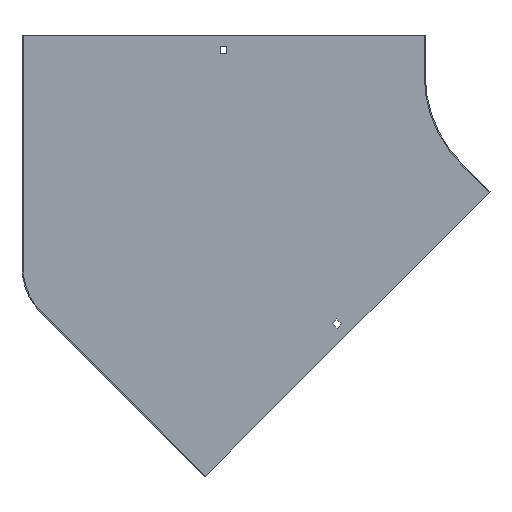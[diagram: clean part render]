
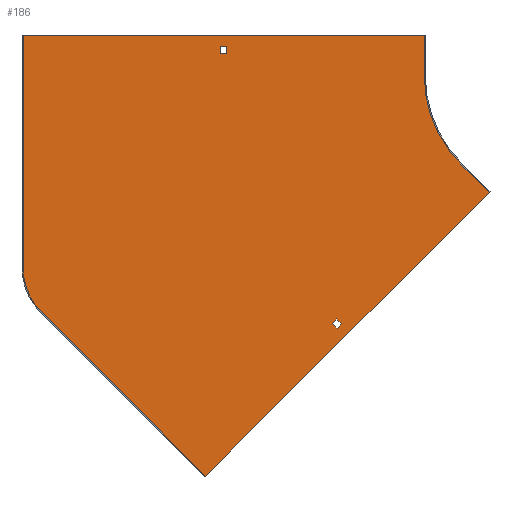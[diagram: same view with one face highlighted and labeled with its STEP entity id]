
A CAD part, front view. The second image highlights one B-rep face of the part: STEP entity #186.
In plain terms, the highlighted planar face has unit normal (0, -1, 0).
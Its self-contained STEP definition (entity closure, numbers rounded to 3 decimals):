
#9 = VERTEX_POINT ( 'NONE', #854 ) ;
#15 = ORIENTED_EDGE ( 'NONE', *, *, #339, .F. ) ;
#17 = VERTEX_POINT ( 'NONE', #56 ) ;
#27 = EDGE_LOOP ( 'NONE', ( #834, #760, #505, #430, #420, #607, #375, #112 ) ) ;
#35 = EDGE_CURVE ( 'NONE', #433, #817, #324, .T. ) ;
#41 = EDGE_CURVE ( 'NONE', #580, #518, #781, .T. ) ;
#49 = VECTOR ( 'NONE', #431, 1000. ) ;
#52 = ORIENTED_EDGE ( 'NONE', *, *, #475, .T. ) ;
#56 = CARTESIAN_POINT ( 'NONE',  ( -207.536, -1., -247.841 ) ) ;
#57 = VERTEX_POINT ( 'NONE', #652 ) ;
#78 = CARTESIAN_POINT ( 'NONE',  ( 0., -1., 0. ) ) ;
#80 = CIRCLE ( 'NONE', #145, 62.5 ) ;
#82 = EDGE_CURVE ( 'NONE', #702, #622, #792, .T. ) ;
#85 = DIRECTION ( 'NONE',  ( 0., 0., 1. ) ) ;
#94 = FACE_BOUND ( 'NONE', #625, .T. ) ;
#103 = VECTOR ( 'NONE', #141, 1000. ) ;
#110 = CARTESIAN_POINT ( 'NONE',  ( -231.931, -1., -231.931 ) ) ;
#112 = ORIENTED_EDGE ( 'NONE', *, *, #82, .F. ) ;
#113 = EDGE_CURVE ( 'NONE', #17, #711, #734, .T. ) ;
#124 = ORIENTED_EDGE ( 'NONE', *, *, #300, .F. ) ;
#130 = CARTESIAN_POINT ( 'NONE',  ( -59.397, -1., -115.966 ) ) ;
#132 = CARTESIAN_POINT ( 'NONE',  ( -227.688, -1., -227.688 ) ) ;
#133 = VECTOR ( 'NONE', #369, 1000. ) ;
#135 = CIRCLE ( 'NONE', #616, 125. ) ;
#137 = PLANE ( 'NONE',  #710 ) ;
#141 = DIRECTION ( 'NONE',  ( -0.707, 0., -0.707 ) ) ;
#145 = AXIS2_PLACEMENT_3D ( 'NONE', #619, #331, #283 ) ;
#147 = CARTESIAN_POINT ( 'NONE',  ( -322., -1., 28.5 ) ) ;
#149 = LINE ( 'NONE', #752, #755 ) ;
#152 = FACE_OUTER_BOUND ( 'NONE', #27, .T. ) ;
#162 = DIRECTION ( 'NONE',  ( 0.707, 0., -0.707 ) ) ;
#169 = VECTOR ( 'NONE', #661, 1000. ) ;
#172 = CARTESIAN_POINT ( 'NONE',  ( 20.153, -1., -20.153 ) ) ;
#186 = ADVANCED_FACE ( 'NONE', ( #94, #152, #549 ), #137, .T. ) ;
#192 = DIRECTION ( 'NONE',  ( 0., -1., 0. ) ) ;
#193 = DIRECTION ( 'NONE',  ( 1., 0., 0. ) ) ;
#194 = VERTEX_POINT ( 'NONE', #557 ) ;
#195 = CARTESIAN_POINT ( 'NONE',  ( -506.694, -1., -235.768 ) ) ;
#202 = EDGE_CURVE ( 'NONE', #711, #194, #606, .T. ) ;
#209 = VERTEX_POINT ( 'NONE', #405 ) ;
#211 = EDGE_CURVE ( 'NONE', #817, #685, #80, .T. ) ;
#219 = DIRECTION ( 'NONE',  ( -0.707, 0., 0.707 ) ) ;
#222 = ORIENTED_EDGE ( 'NONE', *, *, #41, .T. ) ;
#233 = LINE ( 'NONE', #293, #133 ) ;
#242 = VERTEX_POINT ( 'NONE', #577 ) ;
#256 = ORIENTED_EDGE ( 'NONE', *, *, #113, .F. ) ;
#272 = EDGE_CURVE ( 'NONE', #685, #242, #233, .T. ) ;
#278 = VECTOR ( 'NONE', #467, 1000. ) ;
#283 = DIRECTION ( 'NONE',  ( 0., 0., -1. ) ) ;
#293 = CARTESIAN_POINT ( 'NONE',  ( -525., -1., -191.574 ) ) ;
#300 = EDGE_CURVE ( 'NONE', #194, #822, #632, .T. ) ;
#307 = VECTOR ( 'NONE', #655, 1000. ) ;
#320 = DIRECTION ( 'NONE',  ( -0.707, 0., -0.707 ) ) ;
#321 = CARTESIAN_POINT ( 'NONE',  ( -88.388, -1., -88.388 ) ) ;
#324 = LINE ( 'NONE', #718, #644 ) ;
#328 = DIRECTION ( 'NONE',  ( 0., 0., -1. ) ) ;
#331 = DIRECTION ( 'NONE',  ( 0., 1., 0. ) ) ;
#339 = EDGE_CURVE ( 'NONE', #822, #17, #846, .T. ) ;
#352 = CARTESIAN_POINT ( 'NONE',  ( -328., -1., 0. ) ) ;
#353 = ORIENTED_EDGE ( 'NONE', *, *, #772, .T. ) ;
#369 = DIRECTION ( 'NONE',  ( 0., 0., 1. ) ) ;
#370 = CARTESIAN_POINT ( 'NONE',  ( -328., -1., 28.5 ) ) ;
#375 = ORIENTED_EDGE ( 'NONE', *, *, #794, .F. ) ;
#381 = CARTESIAN_POINT ( 'NONE',  ( -125., -1., 40. ) ) ;
#385 = LINE ( 'NONE', #651, #169 ) ;
#388 = LINE ( 'NONE', #130, #729 ) ;
#405 = CARTESIAN_POINT ( 'NONE',  ( -60.104, -1., -116.673 ) ) ;
#414 = EDGE_CURVE ( 'NONE', #209, #433, #388, .T. ) ;
#420 = ORIENTED_EDGE ( 'NONE', *, *, #414, .F. ) ;
#430 = ORIENTED_EDGE ( 'NONE', *, *, #35, .F. ) ;
#431 = DIRECTION ( 'NONE',  ( 0.707, 0., 0.707 ) ) ;
#433 = VERTEX_POINT ( 'NONE', #620 ) ;
#440 = CARTESIAN_POINT ( 'NONE',  ( -525., -1., -191.574 ) ) ;
#449 = DIRECTION ( 'NONE',  ( 0., 0., -1. ) ) ;
#464 = DIRECTION ( 'NONE',  ( 0., 0., -1. ) ) ;
#467 = DIRECTION ( 'NONE',  ( 1., 0., 0. ) ) ;
#472 = ORIENTED_EDGE ( 'NONE', *, *, #484, .T. ) ;
#475 = EDGE_CURVE ( 'NONE', #9, #580, #688, .T. ) ;
#478 = CARTESIAN_POINT ( 'NONE',  ( -88.388, -1., -88.388 ) ) ;
#484 = EDGE_CURVE ( 'NONE', #518, #57, #149, .T. ) ;
#501 = VERTEX_POINT ( 'NONE', #478 ) ;
#505 = ORIENTED_EDGE ( 'NONE', *, *, #211, .F. ) ;
#518 = VERTEX_POINT ( 'NONE', #147 ) ;
#535 = VECTOR ( 'NONE', #449, 1000. ) ;
#549 = FACE_BOUND ( 'NONE', #635, .T. ) ;
#557 = CARTESIAN_POINT ( 'NONE',  ( -216.728, -1., -247.134 ) ) ;
#573 = DIRECTION ( 'NONE',  ( -0.707, 0., 0.707 ) ) ;
#577 = CARTESIAN_POINT ( 'NONE',  ( -525., -1., 40. ) ) ;
#580 = VERTEX_POINT ( 'NONE', #370 ) ;
#582 = LINE ( 'NONE', #321, #307 ) ;
#596 = LINE ( 'NONE', #795, #278 ) ;
#599 = CARTESIAN_POINT ( 'NONE',  ( -211.778, -1., -252.084 ) ) ;
#603 = VECTOR ( 'NONE', #193, 1000. ) ;
#606 = LINE ( 'NONE', #670, #103 ) ;
#607 = ORIENTED_EDGE ( 'NONE', *, *, #726, .F. ) ;
#616 = AXIS2_PLACEMENT_3D ( 'NONE', #791, #192, #464 ) ;
#619 = CARTESIAN_POINT ( 'NONE',  ( -462.5, -1., -191.574 ) ) ;
#620 = CARTESIAN_POINT ( 'NONE',  ( -342.947, -1., -399.515 ) ) ;
#622 = VERTEX_POINT ( 'NONE', #708 ) ;
#624 = DIRECTION ( 'NONE',  ( 0., 0., -1. ) ) ;
#625 = EDGE_LOOP ( 'NONE', ( #256, #15, #124, #797 ) ) ;
#629 = VECTOR ( 'NONE', #162, 1000. ) ;
#632 = LINE ( 'NONE', #110, #629 ) ;
#635 = EDGE_LOOP ( 'NONE', ( #222, #472, #353, #52 ) ) ;
#644 = VECTOR ( 'NONE', #573, 1000. ) ;
#651 = CARTESIAN_POINT ( 'NONE',  ( 0., -1., 21.5 ) ) ;
#652 = CARTESIAN_POINT ( 'NONE',  ( -322., -1., 21.5 ) ) ;
#655 = DIRECTION ( 'NONE',  ( 0.707, 0., -0.707 ) ) ;
#661 = DIRECTION ( 'NONE',  ( -1., 0., 0. ) ) ;
#670 = CARTESIAN_POINT ( 'NONE',  ( 15.203, -1., -15.203 ) ) ;
#685 = VERTEX_POINT ( 'NONE', #440 ) ;
#688 = LINE ( 'NONE', #352, #810 ) ;
#702 = VERTEX_POINT ( 'NONE', #780 ) ;
#708 = CARTESIAN_POINT ( 'NONE',  ( -125., -1., 0. ) ) ;
#710 = AXIS2_PLACEMENT_3D ( 'NONE', #78, #796, #328 ) ;
#711 = VERTEX_POINT ( 'NONE', #730 ) ;
#718 = CARTESIAN_POINT ( 'NONE',  ( -342.947, -1., -399.515 ) ) ;
#726 = EDGE_CURVE ( 'NONE', #501, #209, #582, .T. ) ;
#729 = VECTOR ( 'NONE', #320, 1000. ) ;
#730 = CARTESIAN_POINT ( 'NONE',  ( -212.486, -1., -242.891 ) ) ;
#734 = LINE ( 'NONE', #132, #798 ) ;
#752 = CARTESIAN_POINT ( 'NONE',  ( -322., -1., 0. ) ) ;
#755 = VECTOR ( 'NONE', #624, 1000. ) ;
#760 = ORIENTED_EDGE ( 'NONE', *, *, #272, .F. ) ;
#772 = EDGE_CURVE ( 'NONE', #57, #9, #385, .T. ) ;
#780 = CARTESIAN_POINT ( 'NONE',  ( -125., -1., 40. ) ) ;
#781 = LINE ( 'NONE', #858, #603 ) ;
#791 = CARTESIAN_POINT ( 'NONE',  ( 0., -1., 0. ) ) ;
#792 = LINE ( 'NONE', #381, #535 ) ;
#794 = EDGE_CURVE ( 'NONE', #622, #501, #135, .T. ) ;
#795 = CARTESIAN_POINT ( 'NONE',  ( -526., -1., 40. ) ) ;
#796 = DIRECTION ( 'NONE',  ( 0., -1., 0. ) ) ;
#797 = ORIENTED_EDGE ( 'NONE', *, *, #202, .F. ) ;
#798 = VECTOR ( 'NONE', #219, 1000. ) ;
#810 = VECTOR ( 'NONE', #85, 1000. ) ;
#817 = VERTEX_POINT ( 'NONE', #195 ) ;
#820 = EDGE_CURVE ( 'NONE', #242, #702, #596, .T. ) ;
#822 = VERTEX_POINT ( 'NONE', #599 ) ;
#834 = ORIENTED_EDGE ( 'NONE', *, *, #820, .F. ) ;
#846 = LINE ( 'NONE', #172, #49 ) ;
#854 = CARTESIAN_POINT ( 'NONE',  ( -328., -1., 21.5 ) ) ;
#858 = CARTESIAN_POINT ( 'NONE',  ( 0., -1., 28.5 ) ) ;
